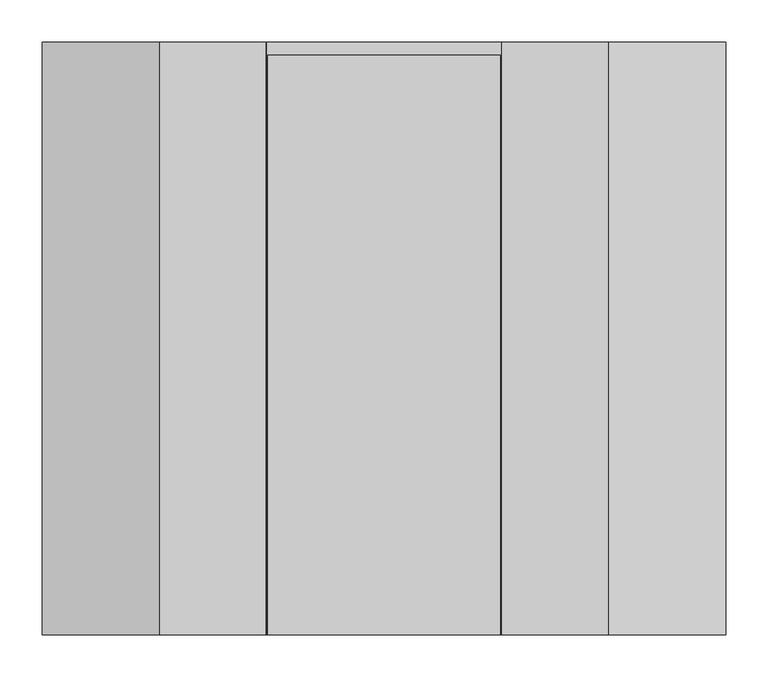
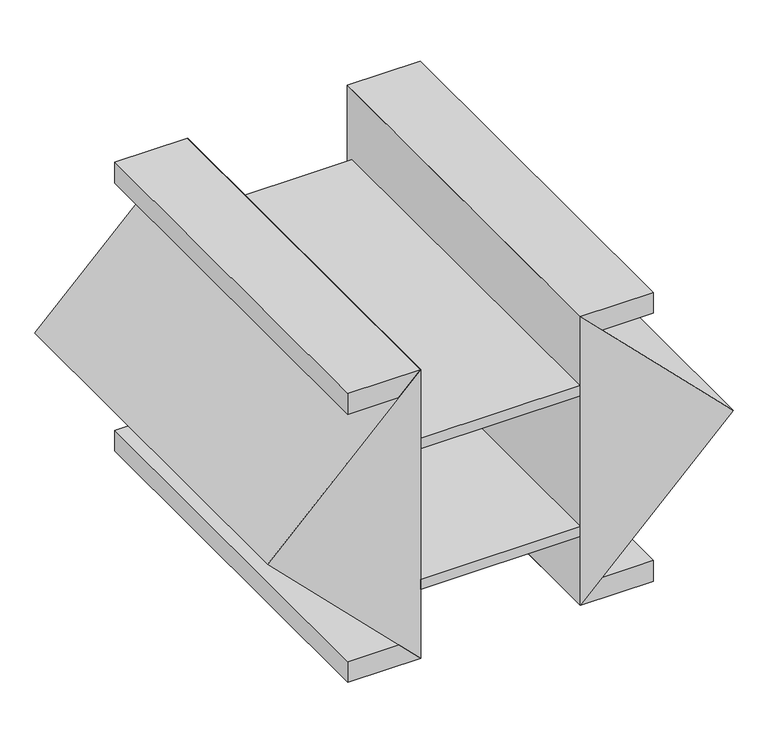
"""IFC4 building model written with IfcOpenShell, lengths in millimetres: proxy geometry, FOUNDATION^TABLE 4_60x60 RADIUS EDGES-BASE ASSEMBLY."""

from ifc_helpers import new_model, si_unit, frame, origin, place, context, project, spatial, polyline, outline, extrude, source, transform, mapped, element, save


def generic_models_868c3093(model_context):
    return source(origin(), model_context, "Body", "SweptSolid", [
        extrude(outline(polyline([(406.4, 612.775), (127.0, 612.775), (127.0, 638.175), (406.4, 638.175), (406.4, 612.775)])), frame((0.0, 0.0, 349.25), z_axis=(0.0, 0.0, 1.0), x_axis=(1.0, 0.0, 0.0)), (0.0, 0.0, 1.0), 38.1),
        extrude(outline(polyline([(404.8125, 0.0), (128.5875, 0.0), (128.5875, 688.975), (404.8125, 688.975), (404.8125, 0.0)])), frame((0.0, 0.0, 387.35), z_axis=(0.0, 0.0, 1.0), x_axis=(1.0, 0.0, 0.0)), (0.0, 0.0, 1.0), 19.05),
        extrude(outline(polyline([(495.3, 533.4), (533.4, 533.4), (533.4, 406.4), (495.3, 444.5), (495.3, 533.4)])), frame((0.0, 0.0, 0.0), z_axis=(0.0, 1.0, 0.0), x_axis=(0.0, 0.0, 1.0)), (0.0, 0.0, 1.0), 704.85),
        extrude(outline(polyline([(266.7, 673.1), (533.4, 406.4), (0.0, 406.4), (266.7, 673.1)])), frame((0.0, 0.0, 0.0), z_axis=(0.0, 1.0, 0.0), x_axis=(0.0, 0.0, 1.0)), (0.0, 0.0, 1.0), 704.85),
        extrude(outline(polyline([(0.0, 533.4), (38.1, 533.4), (38.1, 444.5), (0.0, 406.4), (0.0, 533.4)])), frame((0.0, 0.0, 0.0), z_axis=(0.0, 1.0, 0.0), x_axis=(0.0, 0.0, 1.0)), (0.0, 0.0, 1.0), 704.85),
        extrude(outline(polyline([(406.4, 50.8), (127.0, 50.8), (127.0, 76.2), (406.4, 76.2), (406.4, 50.8)])), frame((0.0, 0.0, 349.25), z_axis=(0.0, 0.0, 1.0), x_axis=(1.0, 0.0, 0.0)), (0.0, 0.0, 1.0), 38.1),
        extrude(outline(polyline([(38.1, 0.0), (0.0, 0.0), (0.0, 127.0), (38.1, 88.9), (38.1, 0.0)])), frame((0.0, 0.0, 0.0), z_axis=(0.0, 1.0, 0.0), x_axis=(0.0, 0.0, 1.0)), (0.0, 0.0, 1.0), 704.85),
        extrude(outline(polyline([(266.7, -139.7), (0.0, 127.0), (533.4, 127.0), (266.7, -139.7)])), frame((0.0, 0.0, 0.0), z_axis=(0.0, 1.0, 0.0), x_axis=(0.0, 0.0, 1.0)), (0.0, 0.0, 1.0), 704.85),
        extrude(outline(polyline([(533.4, 0.0), (495.3, 0.0), (495.3, 88.9), (533.4, 127.0), (533.4, 0.0)])), frame((0.0, 0.0, 0.0), z_axis=(0.0, 1.0, 0.0), x_axis=(0.0, 0.0, 1.0)), (0.0, 0.0, 1.0), 704.85),
        extrude(outline(polyline([(406.4, 0.0), (127.0, 0.0), (127.0, 704.85), (406.4, 704.85), (406.4, 0.0)])), frame((0.0, 0.0, 127.0), z_axis=(0.0, 0.0, 1.0), x_axis=(1.0, 0.0, 0.0)), (0.0, 0.0, 1.0), 19.05),
    ])


if __name__ == "__main__":
    model = new_model("IFC4")
    model_context = context("Model", 3, world=origin())
    ifc_project = project(units=[si_unit("LENGTHUNIT", "METRE", prefix="MILLI")], contexts=[model_context])
    site = spatial("IfcSite", under=ifc_project)
    building = spatial("IfcBuilding", under=site)
    placement = place(None, origin())
    generic_models_shape = generic_models_868c3093(model_context)
    element("IfcBuildingElementProxy", 1, Name="FOUNDATION^TABLE 4_60x60 RADIUS EDGES-BASE ASSEMBLY", ObjectType="FOUNDATION^TABLE 4_60x60 RADIUS EDGES-BASE ASSEMBLY", at=placement, inside=building, context=model_context, shape_type="MappedRepresentation", body=[
        mapped(generic_models_shape, transform((0.0, 0.0, 0.0), x_axis=(1.0, 0.0, 0.0), y_axis=(0.0, 1.0, 0.0), z_axis=(0.0, 0.0, 1.0))),
    ])
    save(model, "model.ifc")
